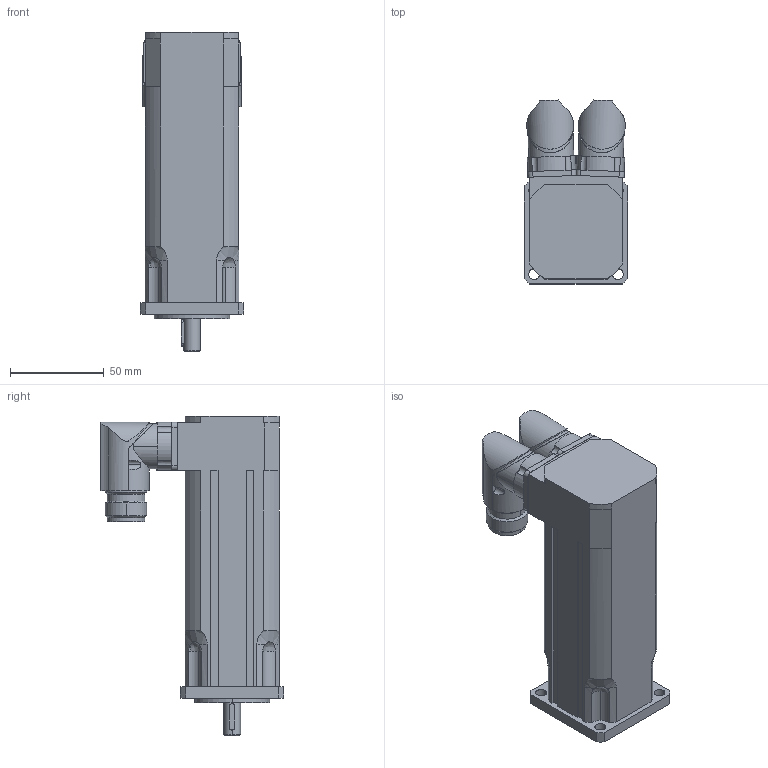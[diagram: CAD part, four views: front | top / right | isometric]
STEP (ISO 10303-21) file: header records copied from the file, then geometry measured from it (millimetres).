
FILE_DESCRIPTION(('STEP AP203'),'2;1');
FILE_NAME('MH2-0090_B.stp','2006-08-29T18:24:54',(''),(''),'2005.2.102','THINKDESIGN','');
FILE_SCHEMA(('CONFIG_CONTROL_DESIGN'));
Length unit declared in the file: millimetre
Bounding box: 55 x 97.7 x 170 mm (x, y, z)
Volume: 413703.3 mm3; surface area: 56862.4 mm2
Topology: 3 solids, 3 shells, 266 faces, 704 edges, 454 vertices
Faces by surface type: cylinder 120, plane 102, bspline 44
Entity records: 10039 total; most frequent: CARTESIAN_POINT 3358, ORIENTED_EDGE 1408, DIRECTION 1378, EDGE_CURVE 704, AXIS2_PLACEMENT_3D 528, VERTEX_POINT 454, VECTOR 322, LINE 322
